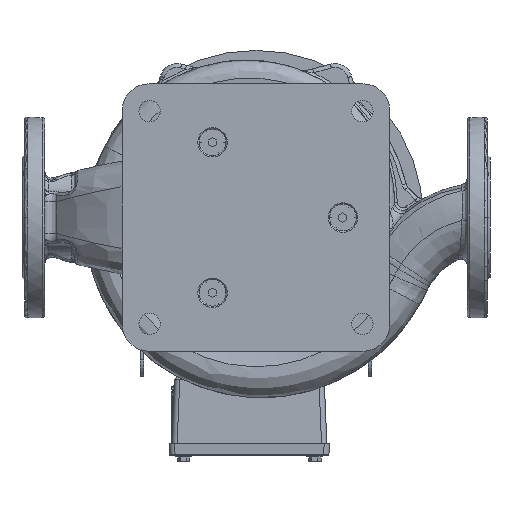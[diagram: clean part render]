
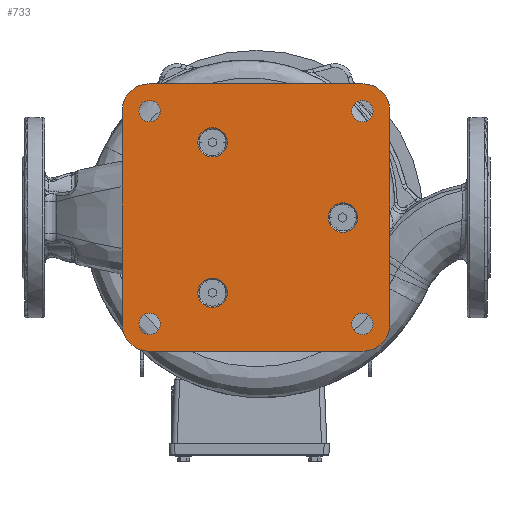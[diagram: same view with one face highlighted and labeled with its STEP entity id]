
A CAD part, front view. The second image highlights one B-rep face of the part: STEP entity #733.
In plain terms, the highlighted planar face has unit normal (0, -1, 0) as drawn and (0, 1, 0) by its records, which use the part's own axes.
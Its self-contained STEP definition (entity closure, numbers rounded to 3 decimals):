
#140=CARTESIAN_POINT('',(80.,10.,80.));
#141=DIRECTION('',(0.,1.,0.));
#142=DIRECTION('',(0.,0.,1.));
#143=AXIS2_PLACEMENT_3D('',#140,#141,#142);
#145=DIRECTION('',(1.,0.,0.));
#146=VECTOR('',#145,160.);
#147=CARTESIAN_POINT('',(-80.,10.,100.));
#148=LINE('',#147,#146);
#149=CARTESIAN_POINT('',(-80.,10.,80.));
#150=DIRECTION('',(0.,1.,0.));
#151=DIRECTION('',(-1.,0.,0.));
#152=AXIS2_PLACEMENT_3D('',#149,#150,#151);
#154=DIRECTION('',(0.,0.,1.));
#155=VECTOR('',#154,160.);
#156=CARTESIAN_POINT('',(-100.,10.,-80.));
#157=LINE('',#156,#155);
#158=CARTESIAN_POINT('',(-80.,10.,-80.));
#159=DIRECTION('',(0.,1.,0.));
#160=DIRECTION('',(0.,0.,-1.));
#161=AXIS2_PLACEMENT_3D('',#158,#159,#160);
#163=DIRECTION('',(-1.,0.,0.));
#164=VECTOR('',#163,160.);
#165=CARTESIAN_POINT('',(80.,10.,-100.));
#166=LINE('',#165,#164);
#167=CARTESIAN_POINT('',(80.,10.,-80.));
#168=DIRECTION('',(0.,1.,0.));
#169=DIRECTION('',(1.,0.,0.));
#170=AXIS2_PLACEMENT_3D('',#167,#168,#169);
#172=DIRECTION('',(0.,0.,-1.));
#173=VECTOR('',#172,160.);
#174=CARTESIAN_POINT('',(100.,10.,80.));
#175=LINE('',#174,#173);
#176=CARTESIAN_POINT('',(79.55,10.,-79.55));
#177=DIRECTION('',(0.,-1.,0.));
#178=DIRECTION('',(1.,0.,0.));
#179=AXIS2_PLACEMENT_3D('',#176,#177,#178);
#181=CARTESIAN_POINT('',(79.55,10.,-79.55));
#182=DIRECTION('',(0.,-1.,0.));
#183=DIRECTION('',(-1.,0.,0.));
#184=AXIS2_PLACEMENT_3D('',#181,#182,#183);
#186=CARTESIAN_POINT('',(79.55,10.,79.55));
#187=DIRECTION('',(0.,-1.,0.));
#188=DIRECTION('',(0.,0.,1.));
#189=AXIS2_PLACEMENT_3D('',#186,#187,#188);
#191=CARTESIAN_POINT('',(79.55,10.,79.55));
#192=DIRECTION('',(0.,-1.,0.));
#193=DIRECTION('',(0.,0.,-1.));
#194=AXIS2_PLACEMENT_3D('',#191,#192,#193);
#196=CARTESIAN_POINT('',(-79.55,10.,79.55));
#197=DIRECTION('',(0.,-1.,0.));
#198=DIRECTION('',(-1.,0.,0.));
#199=AXIS2_PLACEMENT_3D('',#196,#197,#198);
#201=CARTESIAN_POINT('',(-79.55,10.,79.55));
#202=DIRECTION('',(0.,-1.,0.));
#203=DIRECTION('',(1.,0.,0.));
#204=AXIS2_PLACEMENT_3D('',#201,#202,#203);
#206=CARTESIAN_POINT('',(-79.55,10.,-79.55));
#207=DIRECTION('',(0.,-1.,0.));
#208=DIRECTION('',(0.,0.,-1.));
#209=AXIS2_PLACEMENT_3D('',#206,#207,#208);
#211=CARTESIAN_POINT('',(-79.55,10.,-79.55));
#212=DIRECTION('',(0.,-1.,0.));
#213=DIRECTION('',(0.,0.,1.));
#214=AXIS2_PLACEMENT_3D('',#211,#212,#213);
#216=CARTESIAN_POINT('',(0.,10.,-65.));
#217=DIRECTION('',(0.,-1.,0.));
#218=DIRECTION('',(0.,0.,-1.));
#219=AXIS2_PLACEMENT_3D('',#216,#217,#218);
#221=CARTESIAN_POINT('',(0.,10.,-65.));
#222=DIRECTION('',(0.,-1.,0.));
#223=DIRECTION('',(0.,0.,1.));
#224=AXIS2_PLACEMENT_3D('',#221,#222,#223);
#226=CARTESIAN_POINT('',(56.292,10.,32.5));
#227=DIRECTION('',(0.,-1.,0.));
#228=DIRECTION('',(0.866,0.,0.5));
#229=AXIS2_PLACEMENT_3D('',#226,#227,#228);
#231=CARTESIAN_POINT('',(56.292,10.,32.5));
#232=DIRECTION('',(0.,-1.,0.));
#233=DIRECTION('',(-0.866,0.,-0.5));
#234=AXIS2_PLACEMENT_3D('',#231,#232,#233);
#236=CARTESIAN_POINT('',(-56.292,10.,32.5));
#237=DIRECTION('',(0.,-1.,0.));
#238=DIRECTION('',(-0.866,0.,0.5));
#239=AXIS2_PLACEMENT_3D('',#236,#237,#238);
#241=CARTESIAN_POINT('',(-56.292,10.,32.5));
#242=DIRECTION('',(0.,-1.,0.));
#243=DIRECTION('',(0.866,0.,-0.5));
#244=AXIS2_PLACEMENT_3D('',#241,#242,#243);
#390=CARTESIAN_POINT('',(80.,10.,100.));
#391=VERTEX_POINT('',#390);
#392=CARTESIAN_POINT('',(100.,10.,80.));
#393=VERTEX_POINT('',#392);
#398=CARTESIAN_POINT('',(100.,10.,-80.));
#399=VERTEX_POINT('',#398);
#400=CARTESIAN_POINT('',(80.,10.,-100.));
#401=VERTEX_POINT('',#400);
#406=CARTESIAN_POINT('',(-80.,10.,-100.));
#407=VERTEX_POINT('',#406);
#408=CARTESIAN_POINT('',(-100.,10.,-80.));
#409=VERTEX_POINT('',#408);
#414=CARTESIAN_POINT('',(-100.,10.,80.));
#415=VERTEX_POINT('',#414);
#416=CARTESIAN_POINT('',(-80.,10.,100.));
#417=VERTEX_POINT('',#416);
#422=CARTESIAN_POINT('',(87.55,10.,-79.55));
#423=CARTESIAN_POINT('',(71.55,10.,-79.55));
#424=VERTEX_POINT('',#422);
#425=VERTEX_POINT('',#423);
#430=CARTESIAN_POINT('',(79.55,10.,87.55));
#431=CARTESIAN_POINT('',(79.55,10.,71.55));
#432=VERTEX_POINT('',#430);
#433=VERTEX_POINT('',#431);
#438=CARTESIAN_POINT('',(-87.55,10.,79.55));
#439=CARTESIAN_POINT('',(-71.55,10.,79.55));
#440=VERTEX_POINT('',#438);
#441=VERTEX_POINT('',#439);
#446=CARTESIAN_POINT('',(-79.55,10.,-87.55));
#447=CARTESIAN_POINT('',(-79.55,10.,-71.55));
#448=VERTEX_POINT('',#446);
#449=VERTEX_POINT('',#447);
#462=CARTESIAN_POINT('',(0.,10.,-76.));
#463=CARTESIAN_POINT('',(0.,10.,-54.));
#464=VERTEX_POINT('',#462);
#465=VERTEX_POINT('',#463);
#474=CARTESIAN_POINT('',(65.818,10.,38.));
#475=CARTESIAN_POINT('',(46.765,10.,27.));
#476=VERTEX_POINT('',#474);
#477=VERTEX_POINT('',#475);
#486=CARTESIAN_POINT('',(-65.818,10.,38.));
#487=CARTESIAN_POINT('',(-46.765,10.,27.));
#488=VERTEX_POINT('',#486);
#489=VERTEX_POINT('',#487);
#676=CARTESIAN_POINT('',(0.,10.,0.));
#677=DIRECTION('',(0.,1.,0.));
#678=DIRECTION('',(1.,0.,0.));
#679=AXIS2_PLACEMENT_3D('',#676,#677,#678);
#680=PLANE('',#679);
#681=ORIENTED_EDGE('',*,*,#572,.F.);
#682=ORIENTED_EDGE('',*,*,#588,.F.);
#683=ORIENTED_EDGE('',*,*,#601,.F.);
#684=ORIENTED_EDGE('',*,*,#614,.F.);
#685=ORIENTED_EDGE('',*,*,#629,.F.);
#686=ORIENTED_EDGE('',*,*,#642,.F.);
#687=ORIENTED_EDGE('',*,*,#657,.F.);
#688=ORIENTED_EDGE('',*,*,#669,.F.);
#689=EDGE_LOOP('',(#681,#682,#683,#684,#685,#686,#687,#688));
#690=FACE_OUTER_BOUND('',#689,.F.);
#692=ORIENTED_EDGE('',*,*,#691,.F.);
#694=ORIENTED_EDGE('',*,*,#693,.F.);
#695=EDGE_LOOP('',(#692,#694));
#696=FACE_BOUND('',#695,.F.);
#698=ORIENTED_EDGE('',*,*,#697,.F.);
#700=ORIENTED_EDGE('',*,*,#699,.F.);
#701=EDGE_LOOP('',(#698,#700));
#702=FACE_BOUND('',#701,.F.);
#704=ORIENTED_EDGE('',*,*,#703,.F.);
#706=ORIENTED_EDGE('',*,*,#705,.F.);
#707=EDGE_LOOP('',(#704,#706));
#708=FACE_BOUND('',#707,.F.);
#710=ORIENTED_EDGE('',*,*,#709,.F.);
#712=ORIENTED_EDGE('',*,*,#711,.F.);
#713=EDGE_LOOP('',(#710,#712));
#714=FACE_BOUND('',#713,.F.);
#716=ORIENTED_EDGE('',*,*,#715,.F.);
#718=ORIENTED_EDGE('',*,*,#717,.F.);
#719=EDGE_LOOP('',(#716,#718));
#720=FACE_BOUND('',#719,.F.);
#722=ORIENTED_EDGE('',*,*,#721,.F.);
#724=ORIENTED_EDGE('',*,*,#723,.F.);
#725=EDGE_LOOP('',(#722,#724));
#726=FACE_BOUND('',#725,.F.);
#728=ORIENTED_EDGE('',*,*,#727,.F.);
#730=ORIENTED_EDGE('',*,*,#729,.F.);
#731=EDGE_LOOP('',(#728,#730));
#732=FACE_BOUND('',#731,.F.);
#733=ADVANCED_FACE('',(#690,#696,#702,#708,#714,#720,#726,#732),#680,.T.);
#144=CIRCLE('',#143,20.);
#153=CIRCLE('',#152,20.);
#162=CIRCLE('',#161,20.);
#171=CIRCLE('',#170,20.);
#180=CIRCLE('',#179,8.);
#185=CIRCLE('',#184,8.);
#190=CIRCLE('',#189,8.);
#195=CIRCLE('',#194,8.);
#200=CIRCLE('',#199,8.);
#205=CIRCLE('',#204,8.);
#210=CIRCLE('',#209,8.);
#215=CIRCLE('',#214,8.);
#220=CIRCLE('',#219,11.);
#225=CIRCLE('',#224,11.);
#230=CIRCLE('',#229,11.);
#235=CIRCLE('',#234,11.);
#240=CIRCLE('',#239,11.);
#245=CIRCLE('',#244,11.);
#572=EDGE_CURVE('',#391,#393,#144,.T.);
#588=EDGE_CURVE('',#417,#391,#148,.T.);
#601=EDGE_CURVE('',#415,#417,#153,.T.);
#614=EDGE_CURVE('',#409,#415,#157,.T.);
#629=EDGE_CURVE('',#407,#409,#162,.T.);
#642=EDGE_CURVE('',#401,#407,#166,.T.);
#657=EDGE_CURVE('',#399,#401,#171,.T.);
#669=EDGE_CURVE('',#393,#399,#175,.T.);
#691=EDGE_CURVE('',#424,#425,#180,.T.);
#693=EDGE_CURVE('',#425,#424,#185,.T.);
#697=EDGE_CURVE('',#432,#433,#190,.T.);
#699=EDGE_CURVE('',#433,#432,#195,.T.);
#703=EDGE_CURVE('',#440,#441,#200,.T.);
#705=EDGE_CURVE('',#441,#440,#205,.T.);
#709=EDGE_CURVE('',#448,#449,#210,.T.);
#711=EDGE_CURVE('',#449,#448,#215,.T.);
#715=EDGE_CURVE('',#464,#465,#220,.T.);
#717=EDGE_CURVE('',#465,#464,#225,.T.);
#721=EDGE_CURVE('',#476,#477,#230,.T.);
#723=EDGE_CURVE('',#477,#476,#235,.T.);
#727=EDGE_CURVE('',#488,#489,#240,.T.);
#729=EDGE_CURVE('',#489,#488,#245,.T.);
